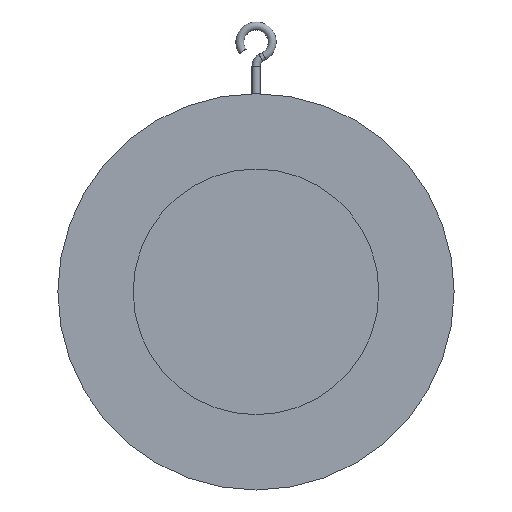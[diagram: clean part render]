
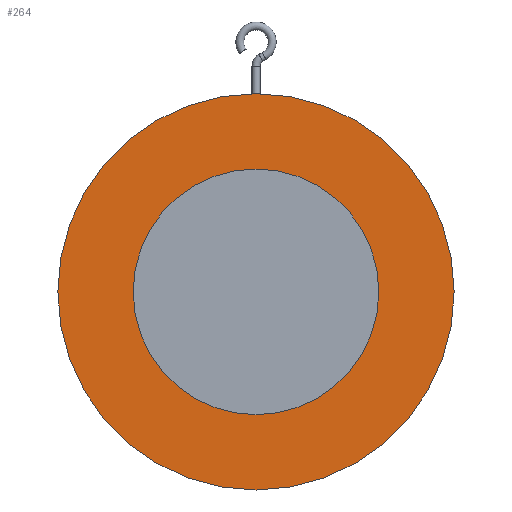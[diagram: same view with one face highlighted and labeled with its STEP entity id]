
A CAD part, front view. The second image highlights one B-rep face of the part: STEP entity #264.
In plain terms, the highlighted planar face has unit normal (0, -1, 0).
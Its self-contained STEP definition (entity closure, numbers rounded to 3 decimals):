
#264=ADVANCED_FACE('',(#509,#511),#513,.T.);
#509=FACE_BOUND('',#510,.T.);
#510=EDGE_LOOP('',(#680));
#511=FACE_BOUND('',#512,.T.);
#512=EDGE_LOOP('',(#681));
#513=PLANE('',#514);
#514=AXIS2_PLACEMENT_3D('',#515,#516,#517);
#515=CARTESIAN_POINT('',(0.,-24.,0.));
#516=DIRECTION('',(0.,-1.,0.));
#517=DIRECTION('',(0.,0.,1.));
#680=ORIENTED_EDGE('',*,*,#747,.F.);
#681=ORIENTED_EDGE('',*,*,#749,.T.);
#747=EDGE_CURVE('',#847,#847,#848,.T.);
#749=EDGE_CURVE('',#851,#851,#852,.T.);
#847=VERTEX_POINT('',#1336);
#848=CIRCLE('',#1337,246.);
#851=VERTEX_POINT('',#1346);
#852=CIRCLE('',#1347,152.5);
#1336=CARTESIAN_POINT('',(0.,-24.,246.));
#1337=AXIS2_PLACEMENT_3D('',#1338,#1339,#1340);
#1338=CARTESIAN_POINT('',(0.,-24.,0.));
#1339=DIRECTION('',(0.,1.,0.));
#1340=DIRECTION('',(0.,0.,1.));
#1346=CARTESIAN_POINT('',(0.,-24.,152.5));
#1347=AXIS2_PLACEMENT_3D('',#1348,#1349,#1350);
#1348=CARTESIAN_POINT('',(0.,-24.,0.));
#1349=DIRECTION('',(0.,1.,0.));
#1350=DIRECTION('',(0.,0.,1.));
